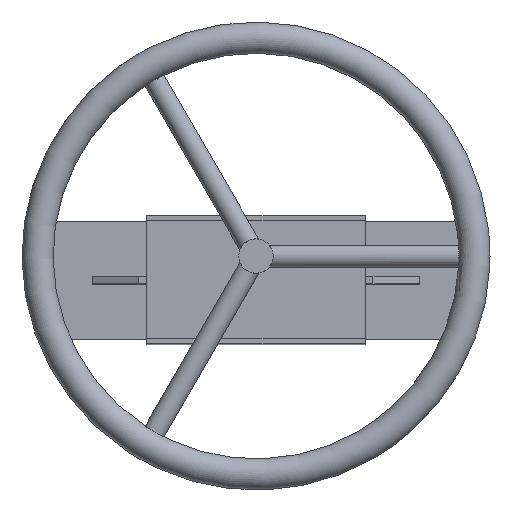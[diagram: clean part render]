
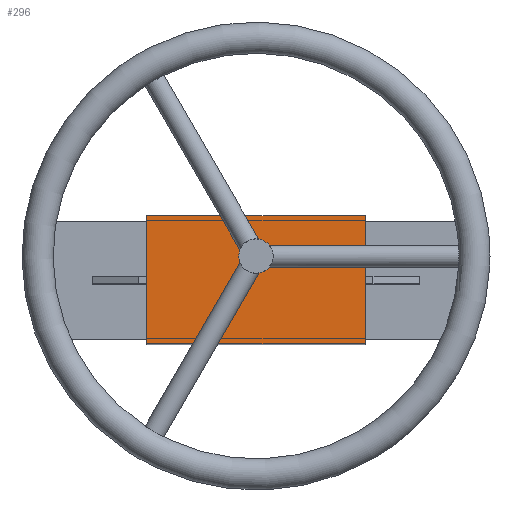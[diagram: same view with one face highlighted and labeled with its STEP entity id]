
A CAD part, top view. The second image highlights one B-rep face of the part: STEP entity #296.
In plain terms, the highlighted planar face has unit normal (0, 0, 1).
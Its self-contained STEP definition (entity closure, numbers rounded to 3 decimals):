
#296=ADVANCED_FACE('',(#1149,#1151),#1153,.T.);
#1149=FACE_BOUND('',#1150,.T.);
#1150=EDGE_LOOP('',(#1887,#1888,#1889,#1890));
#1151=FACE_BOUND('',#1152,.T.);
#1152=EDGE_LOOP('',(#1891));
#1153=PLANE('',#1154);
#1154=AXIS2_PLACEMENT_3D('',#1155,#1156,#1157);
#1155=CARTESIAN_POINT('',(-70.,41.,538.));
#1156=DIRECTION('',(-0.,0.,1.));
#1157=DIRECTION('',(0.,-1.,0.));
#1887=ORIENTED_EDGE('',*,*,#2299,.T.);
#1888=ORIENTED_EDGE('',*,*,#2313,.T.);
#1889=ORIENTED_EDGE('',*,*,#2304,.F.);
#1890=ORIENTED_EDGE('',*,*,#2314,.F.);
#1891=ORIENTED_EDGE('',*,*,#2315,.T.);
#2299=EDGE_CURVE('',#2597,#2595,#2598,.T.);
#2304=EDGE_CURVE('',#2604,#2606,#2607,.T.);
#2313=EDGE_CURVE('',#2595,#2606,#2621,.T.);
#2314=EDGE_CURVE('',#2597,#2604,#2622,.T.);
#2315=EDGE_CURVE('',#2623,#2623,#2624,.T.);
#2595=VERTEX_POINT('',#3167);
#2597=VERTEX_POINT('',#3171);
#2598=LINE('',#3172,#3173);
#2604=VERTEX_POINT('',#3186);
#2606=VERTEX_POINT('',#3190);
#2607=LINE('',#3191,#3192);
#2621=LINE('',#3223,#3224);
#2622=LINE('',#3226,#3227);
#2623=VERTEX_POINT('',#3229);
#2624=CIRCLE('',#3230,11.);
#3167=CARTESIAN_POINT('',(-70.,-41.,538.));
#3171=CARTESIAN_POINT('',(-70.,41.,538.));
#3172=CARTESIAN_POINT('',(-70.,41.,538.));
#3173=VECTOR('',#3174,1.);
#3174=DIRECTION('',(0.,-1.,0.));
#3186=CARTESIAN_POINT('',(70.,41.,538.));
#3190=CARTESIAN_POINT('',(70.,-41.,538.));
#3191=CARTESIAN_POINT('',(70.,41.,538.));
#3192=VECTOR('',#3193,1.);
#3193=DIRECTION('',(0.,-1.,0.));
#3223=CARTESIAN_POINT('',(-70.,-41.,538.));
#3224=VECTOR('',#3225,1.);
#3225=DIRECTION('',(1.,0.,0.));
#3226=CARTESIAN_POINT('',(-70.,41.,538.));
#3227=VECTOR('',#3228,1.);
#3228=DIRECTION('',(1.,0.,0.));
#3229=CARTESIAN_POINT('',(0.,26.,538.));
#3230=AXIS2_PLACEMENT_3D('',#3231,#3232,#3233);
#3231=CARTESIAN_POINT('',(0.,15.,538.));
#3232=DIRECTION('',(0.,-0.,-1.));
#3233=DIRECTION('',(0.,1.,0.));
